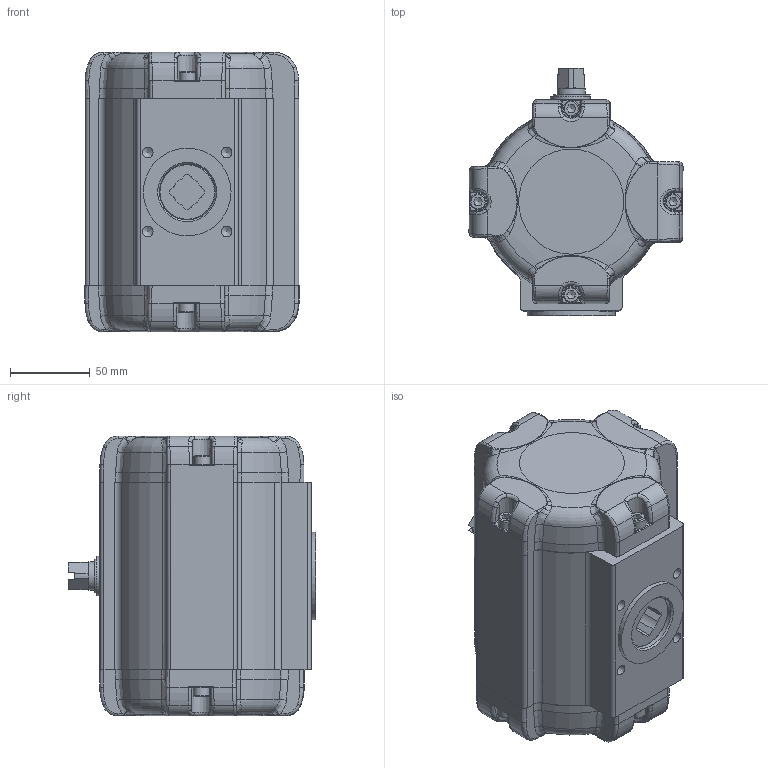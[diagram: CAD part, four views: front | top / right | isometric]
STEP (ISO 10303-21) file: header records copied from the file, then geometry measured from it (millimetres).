
FILE_DESCRIPTION(/* description */ (''),/* implementation_level */ '2;1');
FILE_NAME(/* name */ 'C:\Users\war\Desktop\BR03C_SAD_20.stp',/* time_stamp */ '2021-05-03T13:55:13+02:00',/* author */ ('war'),/* organization */ (''),/* preprocessor_version */ 'ST-DEVELOPER v18.1',/* originating_system */ 'Autodesk Inventor 2021',/* authorisation */ '');
FILE_SCHEMA (('AUTOMOTIVE_DESIGN { 1 0 10303 214 3 1 1 }'));
Products named in the file (1): ENG-039291_Shrinkwrap_1
Bounding box: 134.37 x 155.5 x 175.5 mm (x, y, z)
Volume: 1126394.7 mm3; surface area: 276658.3 mm2
Topology: 3 solids, 3 shells, 2260 faces, 5573 edges, 3235 vertices
Faces by surface type: bspline 691, cylinder 596, plane 446, torus 320, cone 123, sphere 84
Full cylindrical faces by diameter (mm): 1.7 x2, 4.134 x8, 4.917 x1, 5 x4, 6.647 x4, 10 x8, 11.445 x2, 14 x2, 16 x4, 16.3 x4, 16.7 x1, 16.8 x1, 17 x1, 17.8 x4, 18 x3, 18.1 x1, 19 x1, 20.4 x2, 23 x1, 25 x1, 28 x1, 28.5 x1, 31 x3, 34.8 x3, 35 x2, 55 x1, 96.4 x1, 100 x1, 102.5 x2, 103 x2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
Entity records: 107635 total; most frequent: CARTESIAN_POINT 56745, ORIENTED_EDGE 10792, DIRECTION 9281, EDGE_CURVE 5396, AXIS2_PLACEMENT_3D 3970, VERTEX_POINT 3226, EDGE_LOOP 2349, STYLED_ITEM 2255
